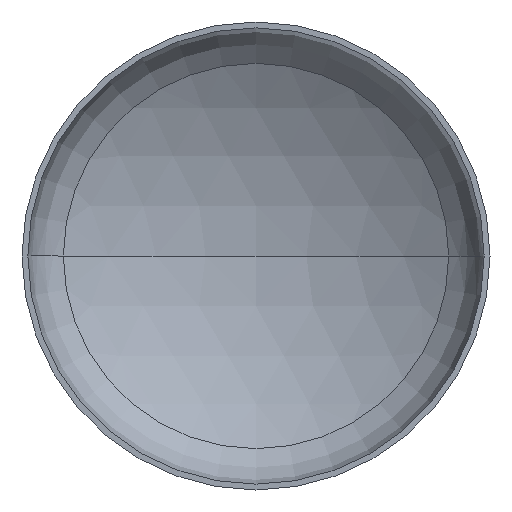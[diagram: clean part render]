
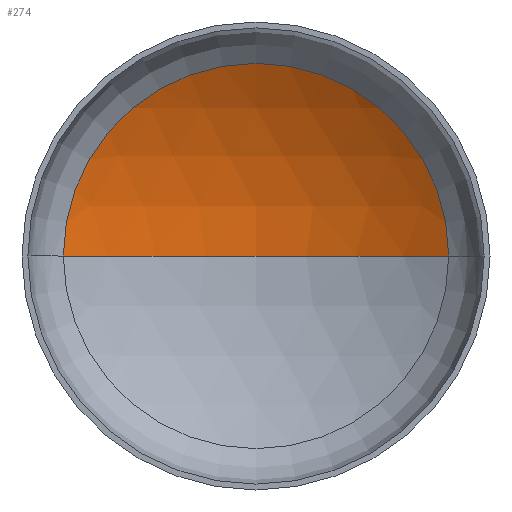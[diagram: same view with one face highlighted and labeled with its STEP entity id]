
A CAD part, front view. The second image highlights one B-rep face of the part: STEP entity #274.
In plain terms, the highlighted spherical face has radius 640 mm.
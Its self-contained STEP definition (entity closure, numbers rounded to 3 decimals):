
#3 = AXIS2_PLACEMENT_3D ( 'NONE', #183, #356, #207 ) ;
#5 = ORIENTED_EDGE ( 'NONE', *, *, #334, .T. ) ;
#14 = EDGE_LOOP ( 'NONE', ( #63, #53, #5 ) ) ;
#18 = AXIS2_PLACEMENT_3D ( 'NONE', #173, #344, #348 ) ;
#25 = VERTEX_POINT ( 'NONE', #276 ) ;
#32 = AXIS2_PLACEMENT_3D ( 'NONE', #213, #185, #255 ) ;
#53 = ORIENTED_EDGE ( 'NONE', *, *, #385, .T. ) ;
#63 = ORIENTED_EDGE ( 'NONE', *, *, #381, .F. ) ;
#120 = VERTEX_POINT ( 'NONE', #184 ) ;
#126 = SPHERICAL_SURFACE ( 'NONE', #32, 640. ) ;
#130 = VERTEX_POINT ( 'NONE', #289 ) ;
#173 = CARTESIAN_POINT ( 'NONE',  ( 0., 137.182, 0. ) ) ;
#183 = CARTESIAN_POINT ( 'NONE',  ( 0., -411.588, 0. ) ) ;
#184 = CARTESIAN_POINT ( 'NONE',  ( 329.32, 137.182, 0. ) ) ;
#185 = DIRECTION ( 'NONE',  ( 0., 0., -1. ) ) ;
#204 = DIRECTION ( 'NONE',  ( -1., 0., 0. ) ) ;
#207 = DIRECTION ( 'NONE',  ( 1., 0., 0. ) ) ;
#213 = CARTESIAN_POINT ( 'NONE',  ( 0., -411.588, 0. ) ) ;
#235 = CIRCLE ( 'NONE', #18, 329.32 ) ;
#252 = CARTESIAN_POINT ( 'NONE',  ( 0., -411.588, 0. ) ) ;
#255 = DIRECTION ( 'NONE',  ( -1., 0., 0. ) ) ;
#269 = CIRCLE ( 'NONE', #3, 640. ) ;
#274 = ADVANCED_FACE ( 'NONE', ( #378 ), #126, .F. ) ;
#276 = CARTESIAN_POINT ( 'NONE',  ( 0., 228.412, 0. ) ) ;
#289 = CARTESIAN_POINT ( 'NONE',  ( -329.32, 137.182, 0. ) ) ;
#305 = AXIS2_PLACEMENT_3D ( 'NONE', #252, #351, #204 ) ;
#334 = EDGE_CURVE ( 'NONE', #120, #130, #235, .T. ) ;
#337 = CIRCLE ( 'NONE', #305, 640. ) ;
#344 = DIRECTION ( 'NONE',  ( 0., -1., 0. ) ) ;
#348 = DIRECTION ( 'NONE',  ( 1., 0., 0. ) ) ;
#351 = DIRECTION ( 'NONE',  ( 0., 0., -1. ) ) ;
#356 = DIRECTION ( 'NONE',  ( 0., 0., 1. ) ) ;
#378 = FACE_OUTER_BOUND ( 'NONE', #14, .T. ) ;
#381 = EDGE_CURVE ( 'NONE', #25, #130, #269, .T. ) ;
#385 = EDGE_CURVE ( 'NONE', #25, #120, #337, .T. ) ;
